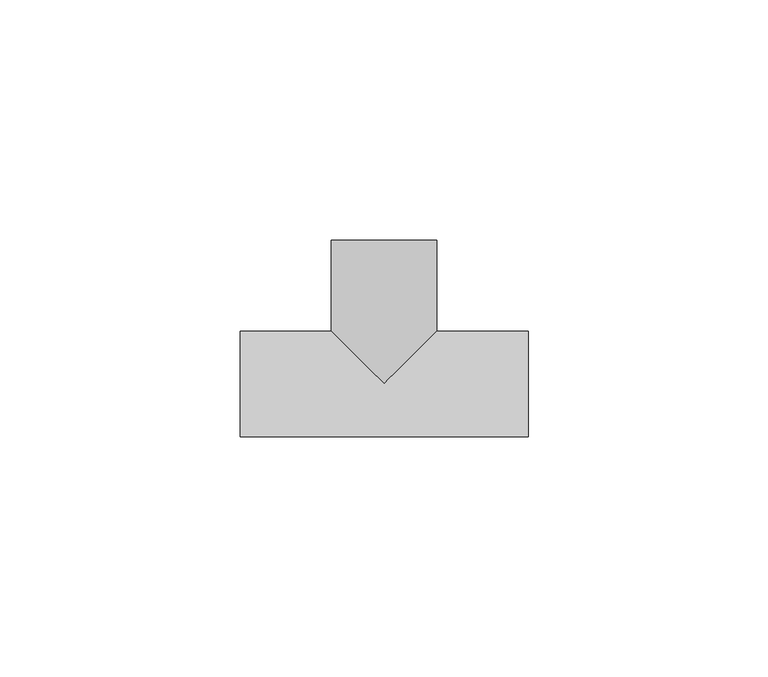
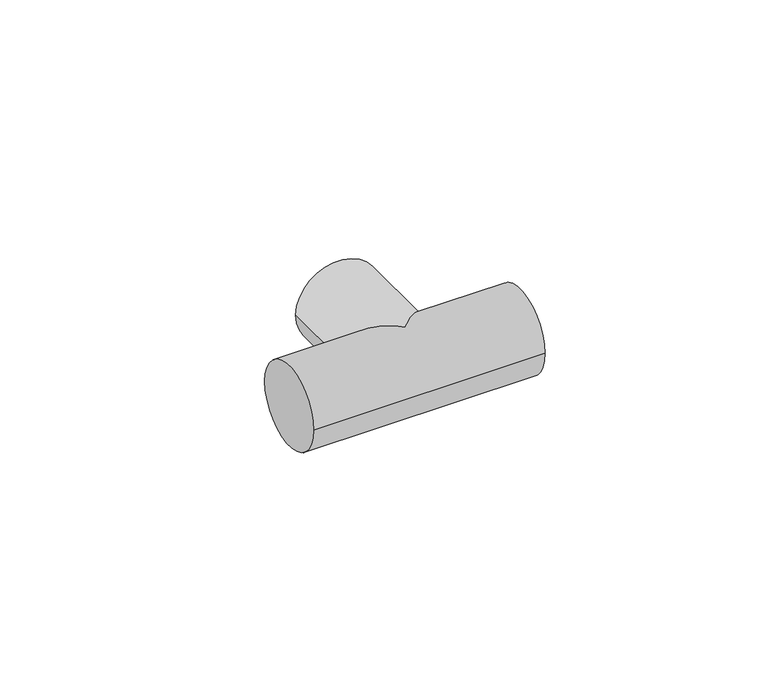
"""IFC4 building model written with IfcOpenShell, lengths in millimetres: cable carrier fitting geometry, Тройник открывающийся TIG : Тройник открывающийся TIG."""

from ifc_helpers import new_model, si_unit, frame, origin, place, context, project, spatial, circle_curve, ellipse_curve, source, transform, mapped, element, save
from ifc_brep_helpers import plane_surface, cylinder_surface, advanced_brep


def cable_carrier_fitting_f9eb6493(model_context):
    return source(origin(), model_context, "Body", "AdvancedBrep", [
        advanced_brep(
        [(30.0, -11.0, 0.0), (30.0, 11.0, 0.0), (-30.0, -11.0, 0.0), (-30.0, 11.0, 0.0), (-11.0, 11.0, 0.0), (0.0, 0.0, -11.0), (11.0, 11.0, 0.0), (0.0, 0.0, 11.0), (-11.0, 30.0, 0.0), (11.0, 30.0, 0.0)],
        [
            (0, 1, circle_curve(frame((30.0, 0.0, 0.0), z_axis=(1.0, 0.0, 0.0), x_axis=(0.0, 1.0, 0.0)), 11.0)),
            (1, 0, circle_curve(frame((30.0, 0.0, 0.0), z_axis=(1.0, 0.0, 0.0), x_axis=(0.0, 1.0, 0.0)), 11.0)),
            (2, 3, circle_curve(frame((-30.0, 0.0, 0.0), z_axis=(-1.0, 0.0, 0.0), x_axis=(0.0, 1.0, 0.0)), 11.0)),
            (3, 2, circle_curve(frame((-30.0, 0.0, 0.0), z_axis=(-1.0, 0.0, 0.0), x_axis=(0.0, 1.0, 0.0)), 11.0)),
            (0, 2),
            (3, 4),
            (4, 5, ellipse_curve(frame((0.0, 0.0, 0.0), z_axis=(-0.7071067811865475, -0.7071067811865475, 0.0), x_axis=(0.7071067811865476, -0.7071067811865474, 0.0)), 15.5563492, 11.0)),
            (5, 6, ellipse_curve(frame((0.0, 0.0, 0.0), z_axis=(0.7071067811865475, -0.7071067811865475, 0.0), x_axis=(0.7071067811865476, 0.7071067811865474, 0.0)), 15.5563492, 11.0)),
            (6, 1),
            (6, 7, ellipse_curve(frame((0.0, 0.0, 0.0), z_axis=(0.7071067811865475, -0.7071067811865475, 0.0), x_axis=(0.7071067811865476, 0.7071067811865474, 0.0)), 15.5563492, 11.0)),
            (7, 4, ellipse_curve(frame((0.0, 0.0, 0.0), z_axis=(-0.7071067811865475, -0.7071067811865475, 0.0), x_axis=(0.7071067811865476, -0.7071067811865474, 0.0)), 15.5563492, 11.0)),
            (8, 9, circle_curve(frame((0.0, 30.0, 0.0), z_axis=(0.0, 1.0, 0.0), x_axis=(0.9999999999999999, 0.0, 0.0)), 11.0)),
            (9, 8, circle_curve(frame((0.0, 30.0, 0.0), z_axis=(0.0, 1.0, 0.0), x_axis=(0.9999999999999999, 0.0, 0.0)), 11.0)),
            (9, 6),
            (4, 8),
        ],
        [
            plane_surface(frame((30.0, 11.0, 0.0), z_axis=(0.9999999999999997, 0.0, 0.0), x_axis=(0.0, 0.0, 0.9999999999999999))),
            plane_surface(frame((-30.0, 11.0, 0.0), z_axis=(-0.9999999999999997, 0.0, 0.0), x_axis=(0.0, 0.0, -0.9999999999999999))),
            cylinder_surface(frame((-30.0, 0.0, 0.0), z_axis=(0.9999999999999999, 0.0, 0.0), x_axis=(0.0, 1.0, 0.0)), 11.0),
            plane_surface(frame((11.0, 30.0, 0.0), z_axis=(0.0, 0.9999999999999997, 0.0), x_axis=(0.0, 0.0, -0.9999999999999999))),
            cylinder_surface(frame((0.0, 30.0, 0.0), z_axis=(0.0, -0.9999999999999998, 0.0), x_axis=(0.9999999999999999, 0.0, 0.0)), 11.0),
        ],
        [
            (0, [[1, 2]]),
            (1, [[3, 4]]),
            (2, [[-1, 5, -4, 6, 7, 8, 9]]),
            (2, [[-2, -9, 10, 11, -6, -3, -5]]),
            (3, [[12, 13]]),
            (4, [[-13, 14, -8, -7, 15]]),
            (4, [[-12, -15, -11, -10, -14]]),
        ],
    ),
    ])


if __name__ == "__main__":
    model = new_model("IFC4")
    model_context = context("Model", 3, world=origin())
    ifc_project = project(units=[si_unit("LENGTHUNIT", "METRE", prefix="MILLI")], contexts=[model_context])
    site = spatial("IfcSite", under=ifc_project)
    building = spatial("IfcBuilding", under=site)
    placement = place(None, origin())
    cable_carrier_fitting_shape = cable_carrier_fitting_f9eb6493(model_context)
    element("IfcCableCarrierFitting", 1, ObjectType="Тройник открывающийся TIG : Тройник открывающийся TIG", at=placement, inside=building, context=model_context, shape_type="MappedRepresentation", body=[
        mapped(cable_carrier_fitting_shape, transform((0.0, 0.0, 0.0), x_axis=(1.0, 0.0, 0.0), y_axis=(0.0, 1.0, 0.0), z_axis=(0.0, 0.0, 1.0))),
    ])
    save(model, "model.ifc")
